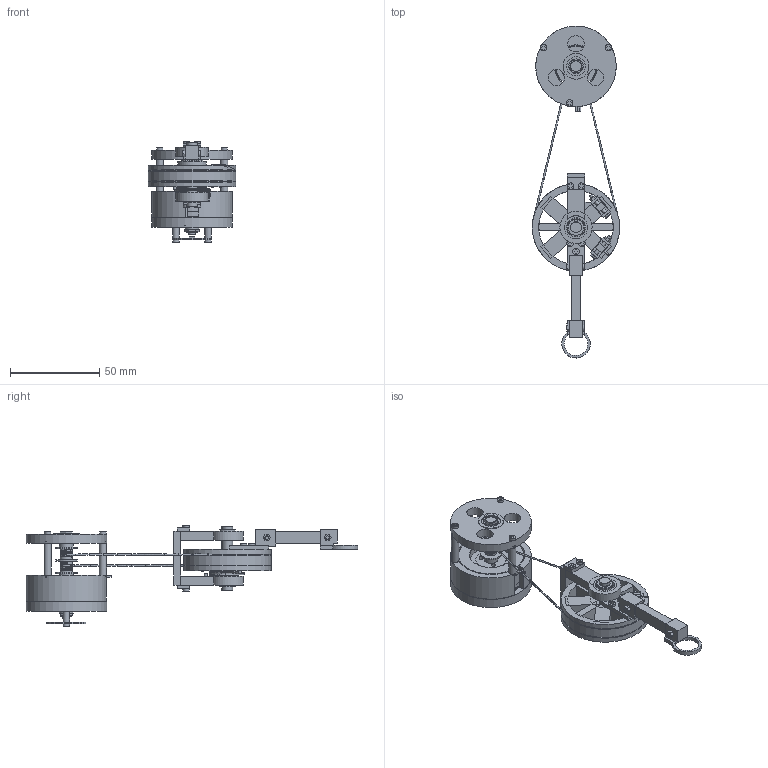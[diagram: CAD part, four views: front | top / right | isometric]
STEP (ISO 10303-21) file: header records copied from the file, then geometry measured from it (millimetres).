
FILE_DESCRIPTION(('Open CASCADE Model'),'2;1');
FILE_NAME('Open CASCADE Shape Model','2026-11-03T08:07:00',('Author'),( 'Open CASCADE'),'Open CASCADE STEP processor 7.9','Open CASCADE 7.9' ,'Unknown');
FILE_SCHEMA(('AUTOMOTIVE_DESIGN { 1 0 10303 214 1 1 1 1 }'));
Length unit declared in the file: millimetre
Products named in the file (79): complete_single_axis; ri30_housing; ri30_rear_cover; ri30_rear_outer; ri30_rear_inner; ri30_rear_shields; ri30_official_0; ri30_official_1; ri30_hub; ri30_spindle; ri30_spacers; ri30_anchor_0; ri30_anchor_screw_0; ri30_anchor_1; ri30_anchor_screw_1; ri30_front_cover; ri30_front_outer; ri30_front_inner; ri30_front_shields; ri30_column_0; ri30_tiebolt_0; ri30_column_1; ri30_tiebolt_1; ri30_column_2; ri30_tiebolt_2; ri30_locknut_0; ri30_locknut_1; ri30_magnet; ri30_encoder; ri30_sensor; ri30_pcb_standoff_0; ri30_pcb_screw_0; ri30_pcb_standoff_1; ri30_pcb_screw_1; j_rear_fork; j_front_fork; j_bridge; j_bearing_0; j_bearing_1; j_wheel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
Assembly tree (78 placements, depth 2):
  complete_single_axis
    ri30_housing
    ri30_rear_cover
    ri30_rear_outer
    ri30_rear_inner
    ri30_rear_shields
    ri30_official_0
    ri30_official_1
    ri30_hub
    ri30_spindle
    ri30_spacers
    ri30_anchor_0
    ri30_anchor_screw_0
    ri30_anchor_1
    ri30_anchor_screw_1
    ri30_front_cover
    ri30_front_outer
    ri30_front_inner
    ri30_front_shields
    ri30_column_0
    ri30_tiebolt_0
    ri30_column_1
    ri30_tiebolt_1
    ri30_column_2
    ri30_tiebolt_2
    ri30_locknut_0
    ri30_locknut_1
    ri30_magnet
    ri30_encoder
    ri30_sensor
    ri30_pcb_standoff_0
    ri30_pcb_screw_0
    ri30_pcb_standoff_1
    ri30_pcb_screw_1
    j_rear_fork
    j_front_fork
    j_bridge
    j_bearing_0
    j_bearing_1
    j_wheel
    j_axle
    j_cross_pin
    j_collar_0
    j_axial_shim_0
    j_collar_1
    j_axial_shim_1
    j_upper_cap
    j_wood
    j_lower_cap
    j_cap_bolt_0
    j_cap_bolt_1
    j_cap_bolt_2
    j_wood_pin_0
    j_wood_nut_0
    j_wood_pin_1
    j_wood_nut_1
    j_anchor_frame_0
    j_anchor_block_0
    j_anchor_screw_0
    j_anchor_nut_0
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Bounding box: 48.8 x 185.49 x 56.4 mm (x, y, z)
Volume: 61272.1 mm3; surface area: 50322.3 mm2
Topology: 101 solids, 101 shells, 1063 faces, 2248 edges, 1425 vertices
Faces by surface type: plane 731, cylinder 290, torus 19, sphere 16, bspline 7
Full cylindrical faces by diameter (mm): 0.66 x1, 0.8 x2, 1.04 x1, 1.1 x2, 1.2 x8, 1.3 x4, 1.4 x2, 1.5 x3, 1.6 x7, 1.8 x2, 1.9 x1, 2 x22, 2.1 x30, 2.16 x4, 2.2 x17, 2.4 x3, 2.52 x2, 3.2 x6, 3.22 x5, 3.6 x18, 4 x4, 4.06 x1, 5.4 x2, 6 x11, 6.02 x1, 6.04 x4, 6.05 x1, 6.1 x2, 6.8 x9, 7.6 x4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
Entity records: 122981 total; most frequent: CARTESIAN_POINT 73593, DIRECTION 9214, LINE 4774, VECTOR 4774, ORIENTED_EDGE 4464, PCURVE 4464, DEFINITIONAL_REPRESENTATION 4464, EDGE_CURVE 2232
